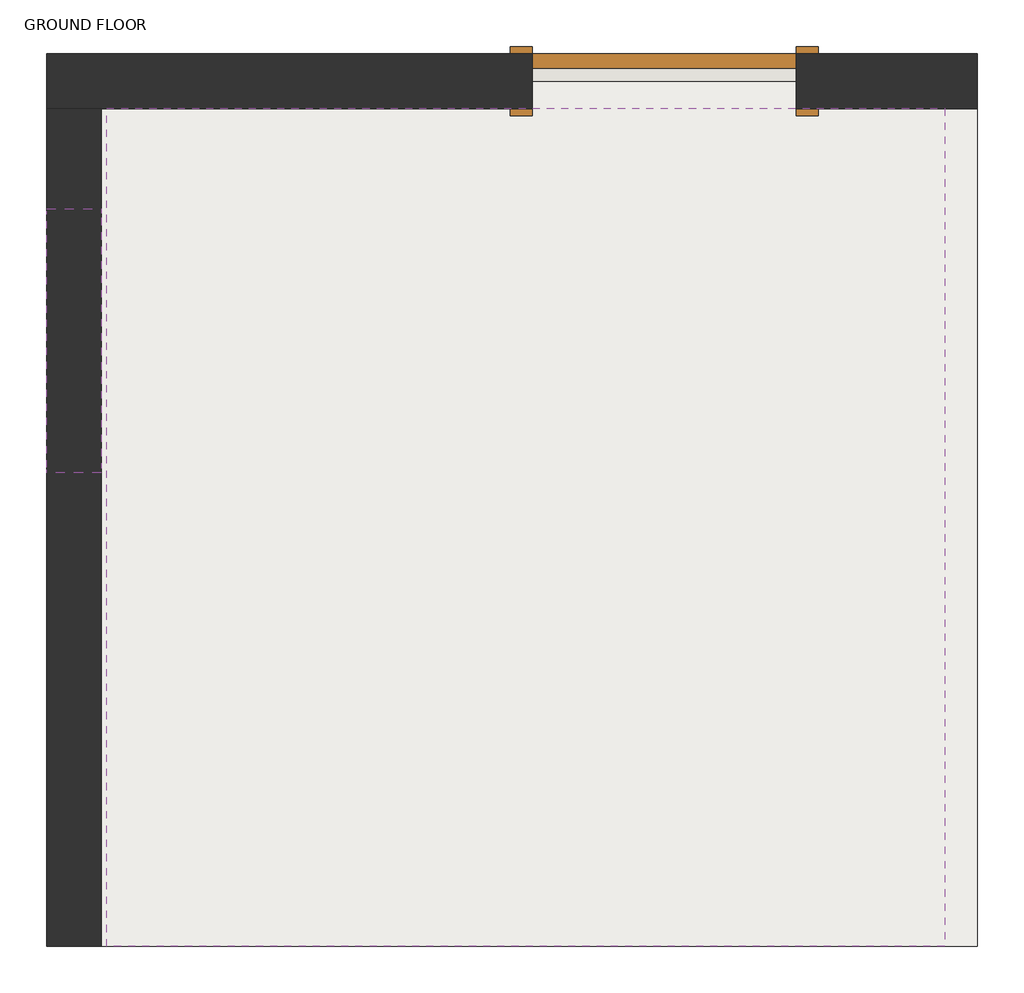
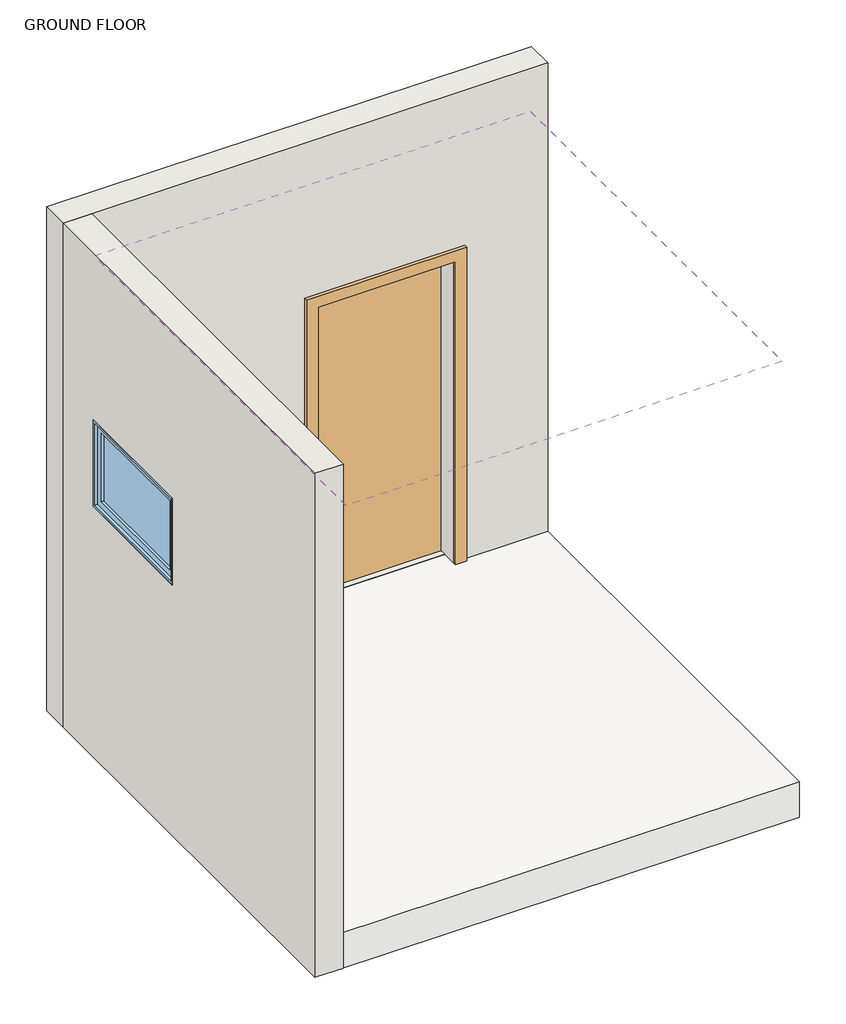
# One storey, part 1 of 2: 2 walls, 1 covering, 1 door, 1 slab, 1 window.
"""IFC4 building model written with IfcOpenShell, lengths in millimetres."""

import ifcopenshell
import ifcopenshell.guid

model = None  # the IFC model being written
_history = None  # IfcOwnerHistory: only IFC2X3 demands one
_inside = {}  # id of a spatial element -> (the spatial element, [elements in it])
_under = {}  # id of a project, library or spatial element -> (it, [spatial elements below it])
_declared = {}  # id of a project -> (the project, [libraries it declares])
_typed = {}  # id of a type object -> (the type object, [elements of that type])
_made_of = {}  # id of a material, layer set ... -> (it, [elements and type objects made of it])


def new_model(schema):
    """Start an empty IFC model of exactly this schema.

    Asked for "IFC4X3", IfcOpenShell would pick the latest addendum, in which some entities
    have other attributes; the version numbers below select the first issue.
    IFC2X3 requires an IfcOwnerHistory on every rooted entity: one is made here for all.
    """
    global model, _history
    if schema == "IFC4X3":
        model = ifcopenshell.file(schema_version=(4, 3, 0, 0))
    else:
        model = ifcopenshell.file(schema=schema)
    _inside.clear()
    _under.clear()
    _declared.clear()
    _typed.clear()
    _made_of.clear()
    _history = None
    if model.schema == "IFC2X3":
        org = make("IfcOrganization", Name="unknown")
        user = make(
            "IfcPersonAndOrganization",
            ThePerson=make("IfcPerson", FamilyName="unknown"),
            TheOrganization=org,
        )
        app = make(
            "IfcApplication",
            ApplicationDeveloper=org,
            Version="unknown",
            ApplicationFullName="unknown",
            ApplicationIdentifier="unknown",
        )
        _history = make(
            "IfcOwnerHistory",
            OwningUser=user,
            OwningApplication=app,
            ChangeAction="ADDED",
            CreationDate=0,
        )
    return model


def make(cls, **values):
    """One entity of the class cls with the attributes given. An attribute that is None is left unset."""
    return model.create_entity(
        cls, **{name: value for name, value in values.items() if value is not None}
    )


def rooted(cls, **values):
    """An entity with a GlobalId (a new one), such as an element, a storey or a relation."""
    return make(cls, GlobalId=ifcopenshell.guid.new(), OwnerHistory=_history, **values)


def si_unit(unit_type, name, prefix=None):
    """IfcSIUnit, for example si_unit("LENGTHUNIT", "METRE", prefix="MILLI")."""
    return make("IfcSIUnit", UnitType=unit_type, Prefix=prefix, Name=name)


def assignment(units):
    """IfcUnitAssignment: the units of a project."""
    return None if units is None else make("IfcUnitAssignment", Units=units)


def point(xyz):
    """IfcCartesianPoint."""
    return None if xyz is None else make("IfcCartesianPoint", Coordinates=xyz)


def direction(xyz):
    """IfcDirection."""
    return None if xyz is None else make("IfcDirection", DirectionRatios=xyz)


def frame(location, z_axis=None, x_axis=None):
    """IfcAxis2Placement3D, a coordinate frame: its origin and axes. An axis left out is left unset."""
    return make(
        "IfcAxis2Placement3D",
        Location=point(location),
        Axis=direction(z_axis),
        RefDirection=direction(x_axis),
    )


def origin():
    """The frame at (0, 0, 0) with its axes left unset."""
    return frame((0.0, 0.0, 0.0))


def origin_with_axes():
    """The frame at (0, 0, 0) with the z axis (0, 0, 1) and the x axis (1, 0, 0) written out."""
    return frame((0.0, 0.0, 0.0), z_axis=(0.0, 0.0, 1.0), x_axis=(1.0, 0.0, 0.0))


def place(relative_to, where):
    """IfcLocalPlacement: puts the frame where relative to a parent placement (None: the world)."""
    return make(
        "IfcLocalPlacement", PlacementRelTo=relative_to, RelativePlacement=where
    )


def context(
    kind, dimensions, precision=None, world=None, true_north=None, identifier=None
):
    """IfcGeometricRepresentationContext, for example the 3D "Model" context."""
    return make(
        "IfcGeometricRepresentationContext",
        ContextIdentifier=identifier,
        ContextType=kind,
        CoordinateSpaceDimension=dimensions,
        Precision=precision,
        WorldCoordinateSystem=world,
        TrueNorth=true_north,
    )


def project(units=None, contexts=None):
    """IfcProject with its units and contexts."""
    return rooted(
        "IfcProject",
        Name="project",
        RepresentationContexts=contexts,
        UnitsInContext=assignment(units),
    )


def spatial(cls, under=None, at=None, **own):
    """A site, building, storey or space (cls), placed at a placement, below another one or the project."""
    s = rooted(cls, ObjectPlacement=at, **own)
    if under is not None:
        _under.setdefault(under.id(), (under, []))[1].append(s)
    return s


def polyline(points):
    """IfcPolyline through the points."""
    return make("IfcPolyline", Points=[point(p) for p in points])


def outline(outer, holes=None, kind="AREA"):
    """IfcArbitraryClosedProfileDef: a profile drawn as a closed curve; with holes, ...WithVoids."""
    if holes is None:
        return make("IfcArbitraryClosedProfileDef", ProfileType=kind, OuterCurve=outer)
    return make(
        "IfcArbitraryProfileDefWithVoids",
        ProfileType=kind,
        OuterCurve=outer,
        InnerCurves=holes,
    )


def extrude(swept, where, along, depth):
    """IfcExtrudedAreaSolid: the profile swept, set in the frame where, extruded along a direction by depth."""
    return make(
        "IfcExtrudedAreaSolid",
        SweptArea=swept,
        Position=where,
        ExtrudedDirection=direction(along),
        Depth=depth,
    )


def faces_of(points, faces, orient=None, outer=None):
    """IfcFace entities. A face is a list of loops; a loop is a list of indices into points, from 0.

    orient and outer hold one flag for each loop. By default every Orientation is true, the
    first loop of a face is its IfcFaceOuterBound and the others are IfcFaceBound.
    """
    made = []
    for i, loops in enumerate(faces):
        bounds = []
        for j, loop in enumerate(loops):
            is_outer = j == 0 if outer is None else outer[i][j]
            bounds.append(
                make(
                    "IfcFaceOuterBound" if is_outer else "IfcFaceBound",
                    Bound=make("IfcPolyLoop", Polygon=[points[k] for k in loop]),
                    Orientation=True if orient is None else orient[i][j],
                )
            )
        made.append(make("IfcFace", Bounds=bounds))
    return made


def faceted_brep(points, faces, orient=None, outer=None, voids=None):
    """IfcFacetedBrep: a solid bounded by flat faces; with voids (closed shells), ...WithVoids."""
    shared = [point(p) for p in points]
    hull = make("IfcClosedShell", CfsFaces=faces_of(shared, faces, orient, outer))
    if voids is None:
        return make("IfcFacetedBrep", Outer=hull)
    return make(
        "IfcFacetedBrepWithVoids",
        Outer=hull,
        Voids=[
            make(cls, CfsFaces=faces_of(shared, fs, o, b)) for cls, fs, o, b in voids
        ],
    )


def shape(context_of_items, identifier, shape_type, items):
    """IfcShapeRepresentation: the items that make up one representation, for example the "Body"."""
    return make(
        "IfcShapeRepresentation",
        ContextOfItems=context_of_items,
        RepresentationIdentifier=identifier,
        RepresentationType=shape_type,
        Items=items,
    )


def source(mapping_origin, context_of_items, identifier, shape_type, items):
    """IfcRepresentationMap: a shape defined once, which mapped items show again and again."""
    return make(
        "IfcRepresentationMap",
        MappingOrigin=mapping_origin,
        MappedRepresentation=shape(context_of_items, identifier, shape_type, items),
    )


def transform(
    local_origin,
    x_axis=None,
    y_axis=None,
    z_axis=None,
    scale=None,
    scale2=None,
    scale3=None,
    uniform=True,
):
    """IfcCartesianTransformationOperator3D, or its non-uniform kind. x_axis, y_axis, z_axis: its Axis1, 2, 3."""
    if uniform:
        return make(
            "IfcCartesianTransformationOperator3D",
            Axis1=direction(x_axis),
            Axis2=direction(y_axis),
            LocalOrigin=point(local_origin),
            Scale=scale,
            Axis3=direction(z_axis),
        )
    return make(
        "IfcCartesianTransformationOperator3DnonUniform",
        Axis1=direction(x_axis),
        Axis2=direction(y_axis),
        LocalOrigin=point(local_origin),
        Scale=scale,
        Axis3=direction(z_axis),
        Scale2=scale2,
        Scale3=scale3,
    )


def mapped(mapping_source, mapping_target):
    """IfcMappedItem: shows the shape of a source again, moved by a transform."""
    return make(
        "IfcMappedItem", MappingSource=mapping_source, MappingTarget=mapping_target
    )


def made_of(thing, what):
    """Note that an element or type object is made of a material, layer set ...; save() writes the relation."""
    if what is not None:
        _made_of.setdefault(what.id(), (what, []))[1].append(thing)
    return thing


def element(
    cls,
    number,
    at=None,
    inside=None,
    cuts=None,
    type_object=None,
    material=None,
    context=None,
    identifier="Body",
    shape_type=None,
    held_by="IfcProductDefinitionShape",
    body=None,
    shapes=None,
    **own,
):
    """One element of the class cls, such as IfcWall. Its Tag is "e" and its number.

    at: its placement. inside: the storey or other place that contains it. cuts: it is an
    opening in that element (IfcRelVoidsElement). A single representation is given by context,
    identifier, shape_type and body (its items); several are given by shapes. held_by: the class
    of the entity that holds the representations. save() writes the other relations.
    """
    e = rooted(cls, Tag="e%d" % number, ObjectPlacement=at, **own)
    if body is not None:
        shapes = [shape(context, identifier, shape_type, body)]
    if shapes is not None:
        e.Representation = make(held_by, Representations=shapes)
    if inside is not None:
        _inside.setdefault(inside.id(), (inside, []))[1].append(e)
    if cuts is not None:
        rooted(
            "IfcRelVoidsElement", RelatingBuildingElement=cuts, RelatedOpeningElement=e
        )
    if type_object is not None:
        _typed.setdefault(type_object.id(), (type_object, []))[1].append(e)
    return made_of(e, material)


def aggregate(whole, parts):
    """IfcRelAggregates: a whole, such as a stair, and the parts it consists of."""
    return rooted("IfcRelAggregates", RelatingObject=whole, RelatedObjects=parts)


def save(model, path):
    """Write the relations noted so far, then the file.

    IfcRelAggregates (storeys below a building ...), IfcRelContainedInSpatialStructure (elements
    in a storey), IfcRelDefinesByType, IfcRelAssociatesMaterial and IfcRelDeclares: one each for
    every whole, place, type object, material and project.
    """
    for whole, parts in _under.values():
        aggregate(whole, parts)
    for where, things in _inside.values():
        rooted(
            "IfcRelContainedInSpatialStructure",
            RelatedElements=things,
            RelatingStructure=where,
        )
    for kind, things in _typed.values():
        rooted("IfcRelDefinesByType", RelatedObjects=things, RelatingType=kind)
    for what, things in _made_of.values():
        rooted("IfcRelAssociatesMaterial", RelatedObjects=things, RelatingMaterial=what)
    for by, libraries in _declared.values():
        rooted("IfcRelDeclares", RelatingContext=by, RelatedDefinitions=libraries)
    model.write(path)


def m_single_flush_0915_x_2134mm_f5238887(model_context):
    return source(origin(), model_context, "Body", "SweptSolid", [
        extrude(outline(polyline([(2210.0, -533.5), (0.0, -533.5), (0.0, -457.5), (2134.0, -457.5), (2134.0, 457.5), (0.0, 457.5), (0.0, 533.5), (2210.0, 533.5), (2210.0, -533.5)])), frame((0.0, 95.0, 0.0), z_axis=(0.0, 1.0, 0.0), x_axis=(0.0, 0.0, 1.0)), (0.0, 0.0, 1.0), 25.0),
        extrude(outline(polyline([(2210.0, 533.5), (2210.0, -533.5), (0.0, -533.5), (0.0, -457.5), (2134.0, -457.5), (2134.0, 457.5), (0.0, 457.5), (0.0, 533.5), (2210.0, 533.5)])), frame((0.0, -120.0, 0.0), z_axis=(0.0, 1.0, 0.0), x_axis=(0.0, 0.0, 1.0)), (0.0, 0.0, 1.0), 25.0),
        extrude(outline(polyline([(457.5, 44.0), (-457.5, 44.0), (-457.5, 95.0), (457.5, 95.0), (457.5, 44.0)])), origin_with_axes(), (0.0, 0.0, 1.0), 2134.0),
    ])


def m_fixed_0915_x_0610mm_e83bb20a(model_context):
    return source(origin(), model_context, "Body", "SweptSolid", [
        extrude(outline(polyline([(-394.5, 73.0), (394.5, 73.0), (394.5, 61.0), (-394.5, 61.0), (-394.5, 73.0)])), frame((0.0, 0.0, 978.0), z_axis=(0.0, 0.0, 1.0), x_axis=(1.0, 0.0, 0.0)), (0.0, 0.0, 1.0), 484.0),
        extrude(outline(polyline([(1506.0, -438.5), (934.0, -438.5), (934.0, 438.5), (1506.0, 438.5), (1506.0, -438.5)]), holes=[polyline([(1462.0, -394.5), (1462.0, 394.5), (978.0, 394.5), (978.0, -394.5), (1462.0, -394.5)])]), frame((0.0, 45.0, 0.0), z_axis=(0.0, 1.0, 0.0), x_axis=(0.0, 0.0, 1.0)), (0.0, 0.0, 1.0), 44.0),
        extrude(outline(polyline([(1525.0, -457.5), (915.0, -457.5), (915.0, 457.5), (1525.0, 457.5), (1525.0, -457.5)]), holes=[polyline([(1506.0, -438.5), (1506.0, 438.5), (934.0, 438.5), (934.0, -438.5), (1506.0, -438.5)])]), frame((0.0, 45.0, 0.0), z_axis=(0.0, 1.0, 0.0), x_axis=(0.0, 0.0, 1.0)), (0.0, 0.0, 1.0), 63.0),
        extrude(outline(polyline([(1525.0, -457.5), (915.0, -457.5), (915.0, 457.5), (1525.0, 457.5), (1525.0, -457.5)]), holes=[polyline([(1493.0, -425.5), (1493.0, 425.5), (947.0, 425.5), (947.0, -425.5), (1493.0, -425.5)])]), frame((0.0, -82.0, 0.0), z_axis=(0.0, 1.0, 0.0), x_axis=(0.0, 0.0, 1.0)), (0.0, 0.0, 1.0), 127.0),
    ])


model = new_model("IFC4")

# Units and contexts
model_context = context("Model", 3, world=origin())
ifc_project = project(units=[si_unit("LENGTHUNIT", "METRE", prefix="MILLI")], contexts=[model_context])

# Site, building, storey
site = spatial("IfcSite", under=ifc_project)
building = spatial("IfcBuilding", under=site)
storey = spatial("IfcBuildingStorey", under=building, Name="GROUND FLOOR", Elevation=0.0)

# Covering
placement = place(None, origin())
element("IfcCovering", 1, ObjectType="AMF Thermatex® Fine Stratos Micro-Perforated - 600x600mm", at=placement, inside=storey, context=model_context, shape_type="SweptSolid", body=[
    extrude(outline(polyline([(-1041.7221628, -12650.6917524), (1863.2778372, -12650.6917524), (1863.2778372, -15555.6917524), (-1041.7221628, -15555.6917524), (-1041.7221628, -12650.6917524)])), frame((0.0, 0.0, 3000.0), z_axis=(0.0, 0.0, 1.0), x_axis=(1.0, 0.0, 0.0)), (0.0, 0.0, 1.0), 51.0),
])

# Door
m_single_flush_0915_x_2134mm_shape = m_single_flush_0915_x_2134mm_f5238887(model_context)
element("IfcDoor", 2, ObjectType="M_Single-Flush : 0915 x 2134mm", at=placement, inside=storey, context=model_context, shape_type="MappedRepresentation", body=[
    mapped(m_single_flush_0915_x_2134mm_shape, transform((891.2778372, -12555.6917524, 0.0), x_axis=(1.0, 0.0, 0.0), y_axis=(0.0, 1.0, 0.0), z_axis=(0.0, 0.0, 1.0))),
])

# Slab
element("IfcSlab", 3, ObjectType="Generic Floor - 250mm", at=placement, inside=storey, context=model_context, shape_type="Brep", body=[
    faceted_brep([(-1136.7221628, -12555.6917524, -250.0), (1977.2778372, -12555.6917524, -250.0), (1977.2778372, -15555.6917524, -250.0), (-1136.7221628, -15555.6917524, -250.0), (-1136.7221628, -12650.6917524, -250.0), (-1136.7221628, -12555.6917524, 0.0), (-1136.7221628, -12650.6917524, 0.0), (-1136.7221628, -15555.6917524, 0.0), (1977.2778372, -15555.6917524, 0.0), (1977.2778372, -12650.6917524, 0.0), (1977.2778372, -12555.6917524, 0.0), (1348.7778372, -12555.6917524, 0.0), (433.7778372, -12555.6917524, 0.0)], [[[0, 1, 2, 3, 4]], [[5, 6, 7, 8, 9, 10, 11, 12]], [[1, 0, 5, 12, 11, 10]], [[2, 1, 10, 9, 8]], [[3, 2, 8, 7]], [[0, 4, 3, 7, 6, 5]]]),
])

# Walls
element("IfcWall", 4, ObjectType="190mm MAXI BLOCK- plastered", at=placement, inside=storey, context=model_context, shape_type="Brep", body=[
    faceted_brep([(1977.2778372, -12650.6917524, 3300.0), (-1060.7221628, -12650.6917524, 3300.0), (-1250.7221628, -12650.6917524, 3300.0), (-1250.7221628, -12650.6917524, -250.0), (-1136.7221628, -12650.6917524, -250.0), (-1136.7221628, -12650.6917524, 0.0), (433.7778372, -12650.6917524, 0.0), (433.7778372, -12650.6917524, 2134.0), (1348.7778372, -12650.6917524, 2134.0), (1348.7778372, -12650.6917524, 0.0), (1977.2778372, -12650.6917524, 0.0), (1977.2778372, -12460.6917524, -250.0), (-1250.7221628, -12460.6917524, -250.0), (-1250.7221628, -12460.6917524, 3300.0), (1977.2778372, -12460.6917524, 3300.0), (433.7778372, -12460.6917524, 0.0), (1348.7778372, -12460.6917524, 0.0), (1348.7778372, -12460.6917524, 2134.0), (433.7778372, -12460.6917524, 2134.0), (1977.2778372, -12555.6917524, -250.0), (-1136.7221628, -12555.6917524, -250.0), (1977.2778372, -12555.6917524, 0.0), (433.7778372, -12555.6917524, 0.0), (1348.7778372, -12555.6917524, 0.0), (-1136.7221628, -12555.6917524, 0.0)], [[[0, 1, 2, 3, 4, 5, 6, 7, 8, 9, 10]], [[11, 12, 13, 14], [15, 16, 17, 18]], [[12, 11, 19, 20, 4, 3]], [[11, 14, 0, 10, 21, 19]], [[2, 1, 0, 14, 13]], [[16, 15, 22, 23]], [[17, 16, 23, 9, 8]], [[18, 17, 8, 7]], [[15, 18, 7, 6, 22]], [[24, 22, 6, 5]], [[23, 21, 10, 9]], [[24, 20, 19, 21, 23, 22]], [[20, 24, 5, 4]], [[3, 2, 13, 12]]]),
])
element("IfcWall", 5, ObjectType="190mm MAXI BLOCK- plastered", at=placement, inside=storey, context=model_context, shape_type="SweptSolid", body=[
    extrude(outline(polyline([(-15555.6917524, -250.0), (-15555.6917524, 3300.0), (-12650.6917524, 3300.0), (-12650.6917524, -250.0), (-15555.6917524, -250.0)]), holes=[polyline([(-13913.1917524, 1518.2533986), (-12998.1917524, 1518.2533986), (-12998.1917524, 2128.2533986), (-13913.1917524, 2128.2533986), (-13913.1917524, 1518.2533986)])]), frame((-1250.7221628, 0.0, 0.0), z_axis=(1.0, 0.0, 0.0), x_axis=(0.0, 1.0, 0.0)), (0.0, 0.0, 1.0), 190.0),
])

# Window
m_fixed_0915_x_0610mm_shape = m_fixed_0915_x_0610mm_e83bb20a(model_context)
element("IfcWindow", 6, ObjectType="M_Fixed : 0915 x 0610mm", at=placement, inside=storey, context=model_context, shape_type="MappedRepresentation", body=[
    mapped(m_fixed_0915_x_0610mm_shape, transform((-1142.7221628, -13455.6917524, 603.2533986), x_axis=(0.0, 1.0, 0.0), y_axis=(-1.0, 0.0, 0.0), z_axis=(0.0, 0.0, 1.0))),
])

save(model, "model.ifc")
